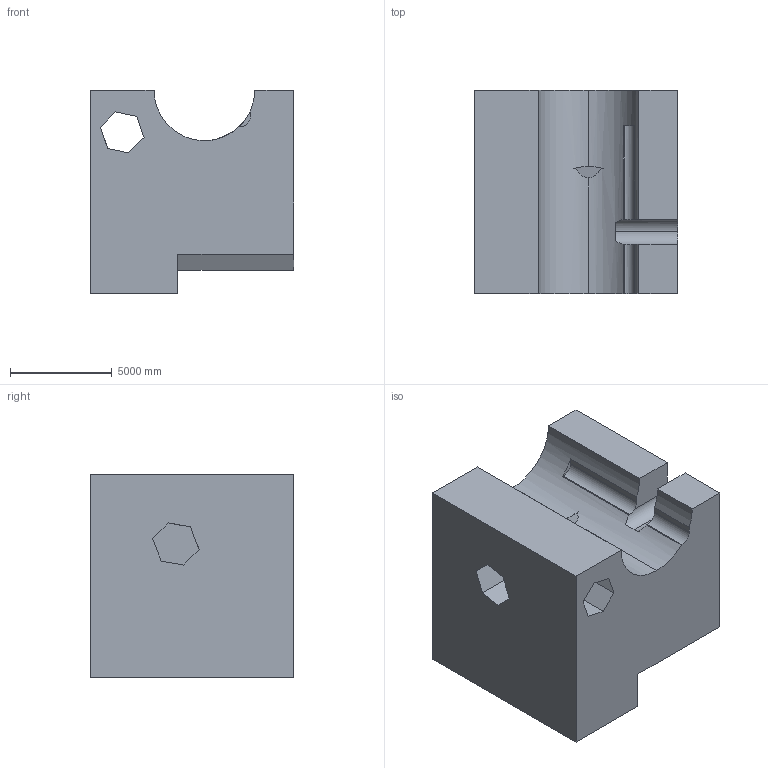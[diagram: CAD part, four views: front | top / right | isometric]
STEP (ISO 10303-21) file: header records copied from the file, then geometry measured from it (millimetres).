
FILE_DESCRIPTION (( 'STEP AP203' ), '1' );
FILE_NAME ('370.STEP', '2022-09-07T13:16:26', ( 'user' ), ( '' ), 'SwSTEP 2.0', 'SolidWorks 2021', '' );
FILE_SCHEMA (( 'CONFIG_CONTROL_DESIGN' ));
Length unit declared in the file: centimetre
Products named in the file (1): 370
Bounding box: 10000 x 10000 x 10000 mm (x, y, z)
Volume: 727555347827.3 mm3; surface area: 755599159.2 mm2
Topology: 1 solids, 1 shells, 56 faces, 162 edges, 108 vertices
Faces by surface type: plane 45, cylinder 11
Entity records: 2009 total; most frequent: CARTESIAN_POINT 443, ORIENTED_EDGE 324, DIRECTION 288, EDGE_CURVE 162, VECTOR 130, LINE 130, VERTEX_POINT 108, AXIS2_PLACEMENT_3D 79
